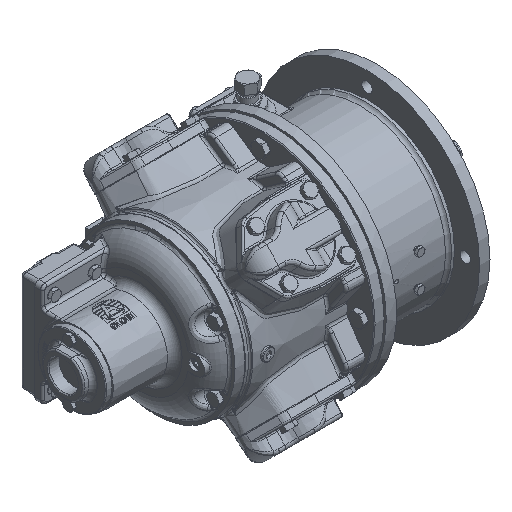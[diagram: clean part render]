
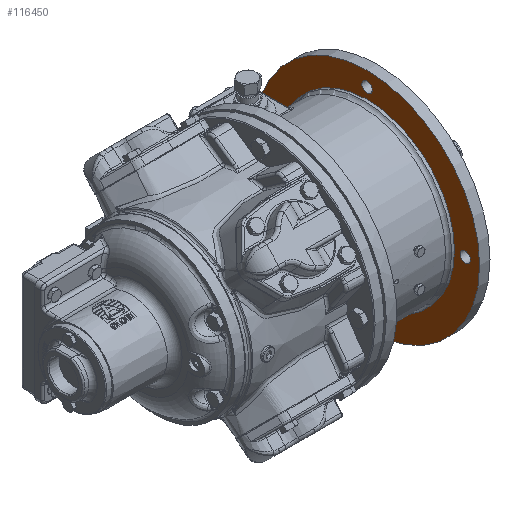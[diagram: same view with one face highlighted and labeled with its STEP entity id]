
A CAD part, isometric view. The second image highlights one B-rep face of the part: STEP entity #116450.
In plain terms, the highlighted planar face has unit normal (-1, 0, 0).
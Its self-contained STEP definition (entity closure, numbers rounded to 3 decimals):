
#3887 = DIRECTION ( 'NONE',  ( 0., 0., -1. ) ) ;
#3903 = CARTESIAN_POINT ( 'NONE',  ( 194.15, -132.5, 0. ) ) ;
#6826 = DIRECTION ( 'NONE',  ( 1., 0., 0. ) ) ;
#7774 = EDGE_LOOP ( 'NONE', ( #72131 ) ) ;
#15103 = AXIS2_PLACEMENT_3D ( 'NONE', #45460, #105599, #153092 ) ;
#16099 = VERTEX_POINT ( 'NONE', #65155 ) ;
#18113 = EDGE_CURVE ( 'NONE', #60809, #60809, #133302, .T. ) ;
#25232 = CARTESIAN_POINT ( 'NONE',  ( 194.15, 0., 125.5 ) ) ;
#28732 = ORIENTED_EDGE ( 'NONE', *, *, #142681, .F. ) ;
#30193 = CIRCLE ( 'NONE', #73076, 7. ) ;
#34693 = DIRECTION ( 'NONE',  ( 0., 0., -1. ) ) ;
#35461 = FACE_BOUND ( 'NONE', #7774, .T. ) ;
#38350 = EDGE_CURVE ( 'NONE', #43891, #43891, #86707, .T. ) ;
#43891 = VERTEX_POINT ( 'NONE', #91407 ) ;
#44944 = AXIS2_PLACEMENT_3D ( 'NONE', #115264, #78858, #88452 ) ;
#45460 = CARTESIAN_POINT ( 'NONE',  ( 194.15, 0., 0. ) ) ;
#46224 = AXIS2_PLACEMENT_3D ( 'NONE', #115341, #6826, #55129 ) ;
#46450 = EDGE_LOOP ( 'NONE', ( #63700 ) ) ;
#48925 = FACE_BOUND ( 'NONE', #85684, .T. ) ;
#53773 = CARTESIAN_POINT ( 'NONE',  ( 194.15, 0., -132.5 ) ) ;
#55129 = DIRECTION ( 'NONE',  ( 0., 0., -1. ) ) ;
#55745 = AXIS2_PLACEMENT_3D ( 'NONE', #3903, #75974, #67199 ) ;
#60809 = VERTEX_POINT ( 'NONE', #25232 ) ;
#61695 = EDGE_LOOP ( 'NONE', ( #142953 ) ) ;
#63700 = ORIENTED_EDGE ( 'NONE', *, *, #38350, .T. ) ;
#65155 = CARTESIAN_POINT ( 'NONE',  ( 194.15, 0., -152. ) ) ;
#65556 = EDGE_LOOP ( 'NONE', ( #28732 ) ) ;
#65785 = EDGE_CURVE ( 'NONE', #141174, #141174, #96243, .T. ) ;
#67199 = DIRECTION ( 'NONE',  ( 0., 0., -1. ) ) ;
#72131 = ORIENTED_EDGE ( 'NONE', *, *, #109304, .F. ) ;
#73076 = AXIS2_PLACEMENT_3D ( 'NONE', #53773, #112406, #3887 ) ;
#73739 = AXIS2_PLACEMENT_3D ( 'NONE', #82190, #143072, #34693 ) ;
#75216 = CIRCLE ( 'NONE', #44944, 7. ) ;
#75974 = DIRECTION ( 'NONE',  ( -1., 0., 0. ) ) ;
#78858 = DIRECTION ( 'NONE',  ( -1., 0., 0. ) ) ;
#82190 = CARTESIAN_POINT ( 'NONE',  ( 194.15, 118., 0. ) ) ;
#83765 = FACE_BOUND ( 'NONE', #46450, .T. ) ;
#85307 = PLANE ( 'NONE',  #73739 ) ;
#85684 = EDGE_LOOP ( 'NONE', ( #151555 ) ) ;
#86707 = CIRCLE ( 'NONE', #46224, 118. ) ;
#87391 = CARTESIAN_POINT ( 'NONE',  ( 194.15, 132.5, -7. ) ) ;
#88161 = VERTEX_POINT ( 'NONE', #87391 ) ;
#88452 = DIRECTION ( 'NONE',  ( 0., 0., -1. ) ) ;
#88925 = CARTESIAN_POINT ( 'NONE',  ( 194.15, 0., -139.5 ) ) ;
#91407 = CARTESIAN_POINT ( 'NONE',  ( 194.15, 0., -118. ) ) ;
#96243 = CIRCLE ( 'NONE', #55745, 7. ) ;
#97167 = FACE_BOUND ( 'NONE', #156466, .T. ) ;
#105599 = DIRECTION ( 'NONE',  ( 1., 0., 0. ) ) ;
#109050 = FACE_BOUND ( 'NONE', #61695, .T. ) ;
#109304 = EDGE_CURVE ( 'NONE', #88161, #88161, #75216, .T. ) ;
#112406 = DIRECTION ( 'NONE',  ( -1., 0., 0. ) ) ;
#115108 = ORIENTED_EDGE ( 'NONE', *, *, #151216, .F. ) ;
#115264 = CARTESIAN_POINT ( 'NONE',  ( 194.15, 132.5, 0. ) ) ;
#115341 = CARTESIAN_POINT ( 'NONE',  ( 194.15, 0., 0. ) ) ;
#116450 = ADVANCED_FACE ( 'NONE', ( #35461, #97167, #109050, #48925, #118600, #83765 ), #85307, .F. ) ;
#118600 = FACE_OUTER_BOUND ( 'NONE', #65556, .T. ) ;
#119125 = CARTESIAN_POINT ( 'NONE',  ( 194.15, 0., 132.5 ) ) ;
#131661 = CARTESIAN_POINT ( 'NONE',  ( 194.15, -132.5, -7. ) ) ;
#131719 = DIRECTION ( 'NONE',  ( 0., 0., -1. ) ) ;
#133302 = CIRCLE ( 'NONE', #153529, 7. ) ;
#138866 = CIRCLE ( 'NONE', #15103, 152. ) ;
#141174 = VERTEX_POINT ( 'NONE', #131661 ) ;
#142021 = DIRECTION ( 'NONE',  ( -1., 0., 0. ) ) ;
#142681 = EDGE_CURVE ( 'NONE', #16099, #16099, #138866, .T. ) ;
#142953 = ORIENTED_EDGE ( 'NONE', *, *, #65785, .F. ) ;
#143072 = DIRECTION ( 'NONE',  ( 1., 0., 0. ) ) ;
#149023 = VERTEX_POINT ( 'NONE', #88925 ) ;
#151216 = EDGE_CURVE ( 'NONE', #149023, #149023, #30193, .T. ) ;
#151555 = ORIENTED_EDGE ( 'NONE', *, *, #18113, .F. ) ;
#153092 = DIRECTION ( 'NONE',  ( 0., 0., -1. ) ) ;
#153529 = AXIS2_PLACEMENT_3D ( 'NONE', #119125, #142021, #131719 ) ;
#156466 = EDGE_LOOP ( 'NONE', ( #115108 ) ) ;
